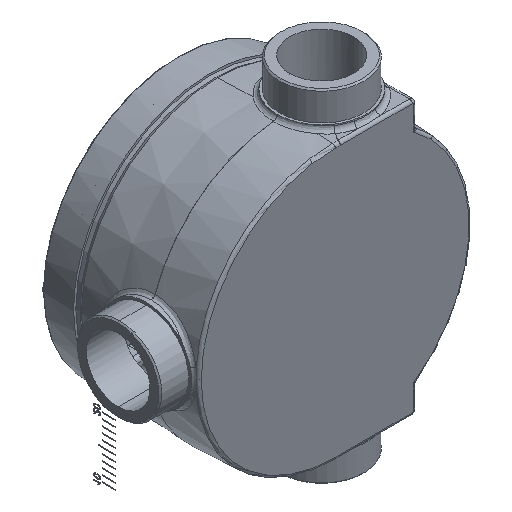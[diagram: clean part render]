
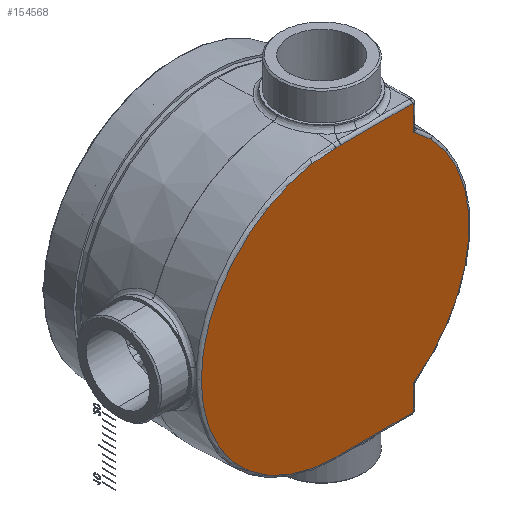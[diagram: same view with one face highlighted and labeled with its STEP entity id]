
A CAD part, isometric view. The second image highlights one B-rep face of the part: STEP entity #154568.
In plain terms, the highlighted planar face has unit normal (0, -1, 0).
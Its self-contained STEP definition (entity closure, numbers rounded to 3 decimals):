
#799 = CARTESIAN_POINT ( 'NONE',  ( 54.5, -35.5, -94.698 ) ) ;
#1807 = AXIS2_PLACEMENT_3D ( 'NONE', #46411, #130397, #58474 ) ;
#1882 = VERTEX_POINT ( 'NONE', #11155 ) ;
#5482 = DIRECTION ( 'NONE',  ( 0., 0., 1. ) ) ;
#6056 = CARTESIAN_POINT ( 'NONE',  ( 55.5, -35.5, -76.815 ) ) ;
#8062 = DIRECTION ( 'NONE',  ( 0., 0., 1. ) ) ;
#10042 = VERTEX_POINT ( 'NONE', #61416 ) ;
#11155 = CARTESIAN_POINT ( 'NONE',  ( 0., -35.5, -94.767 ) ) ;
#11720 = VERTEX_POINT ( 'NONE', #48471 ) ;
#11826 = DIRECTION ( 'NONE',  ( 0., 1., 0. ) ) ;
#12632 = EDGE_CURVE ( 'NONE', #1882, #18380, #93588, .T. ) ;
#13250 = LINE ( 'NONE', #149688, #37547 ) ;
#14395 = EDGE_CURVE ( 'NONE', #10042, #65193, #153396, .T. ) ;
#16718 = EDGE_CURVE ( 'NONE', #64077, #32964, #30122, .T. ) ;
#18380 = VERTEX_POINT ( 'NONE', #97137 ) ;
#21446 = ORIENTED_EDGE ( 'NONE', *, *, #142248, .T. ) ;
#22420 = AXIS2_PLACEMENT_3D ( 'NONE', #151684, #79795, #8062 ) ;
#23780 = CARTESIAN_POINT ( 'NONE',  ( 55.5, -35.5, 76.815 ) ) ;
#25224 = CARTESIAN_POINT ( 'NONE',  ( 0., -35.5, 0. ) ) ;
#25405 = EDGE_CURVE ( 'NONE', #149965, #32964, #124835, .T. ) ;
#27013 = AXIS2_PLACEMENT_3D ( 'NONE', #149127, #77233, #5482 ) ;
#27683 = AXIS2_PLACEMENT_3D ( 'NONE', #140454, #68503, #152507 ) ;
#29095 = DIRECTION ( 'NONE',  ( -1., 0., 0. ) ) ;
#29946 = CARTESIAN_POINT ( 'NONE',  ( 0., -35.5, 0. ) ) ;
#30122 = LINE ( 'NONE', #95585, #153927 ) ;
#30675 = LINE ( 'NONE', #119044, #118845 ) ;
#32964 = VERTEX_POINT ( 'NONE', #124379 ) ;
#33429 = ORIENTED_EDGE ( 'NONE', *, *, #25405, .F. ) ;
#35665 = CARTESIAN_POINT ( 'NONE',  ( 54.5, -35.5, 94.698 ) ) ;
#37214 = DIRECTION ( 'NONE',  ( 0., 0., 1. ) ) ;
#37547 = VECTOR ( 'NONE', #114021, 1000. ) ;
#39984 = EDGE_CURVE ( 'NONE', #10042, #73729, #30675, .T. ) ;
#40190 = CIRCLE ( 'NONE', #155175, 94.767 ) ;
#41912 = DIRECTION ( 'NONE',  ( 0., 0., 1. ) ) ;
#42560 = EDGE_CURVE ( 'NONE', #149965, #11720, #152062, .T. ) ;
#44096 = CIRCLE ( 'NONE', #93570, 94.767 ) ;
#46411 = CARTESIAN_POINT ( 'NONE',  ( 0., -35.5, 0. ) ) ;
#47850 = DIRECTION ( 'NONE',  ( 0., 0., 1. ) ) ;
#48471 = CARTESIAN_POINT ( 'NONE',  ( 3.606, -35.5, 94.698 ) ) ;
#50815 = ORIENTED_EDGE ( 'NONE', *, *, #12632, .T. ) ;
#51256 = VERTEX_POINT ( 'NONE', #71860 ) ;
#51640 = EDGE_CURVE ( 'NONE', #51256, #1882, #44096, .T. ) ;
#52613 = CARTESIAN_POINT ( 'NONE',  ( 0., -35.5, 94.698 ) ) ;
#55686 = PLANE ( 'NONE',  #22420 ) ;
#58474 = DIRECTION ( 'NONE',  ( 0., 0., 1. ) ) ;
#61416 = CARTESIAN_POINT ( 'NONE',  ( 55.5, -35.5, -93.698 ) ) ;
#63507 = ORIENTED_EDGE ( 'NONE', *, *, #14395, .F. ) ;
#64077 = VERTEX_POINT ( 'NONE', #23780 ) ;
#64422 = CIRCLE ( 'NONE', #1807, 94.767 ) ;
#65193 = VERTEX_POINT ( 'NONE', #799 ) ;
#65880 = AXIS2_PLACEMENT_3D ( 'NONE', #83542, #11826, #95612 ) ;
#68503 = DIRECTION ( 'NONE',  ( 0., -1., 0. ) ) ;
#71066 = ORIENTED_EDGE ( 'NONE', *, *, #75824, .T. ) ;
#71860 = CARTESIAN_POINT ( 'NONE',  ( 0., -35.5, 94.767 ) ) ;
#73729 = VERTEX_POINT ( 'NONE', #6056 ) ;
#75824 = EDGE_CURVE ( 'NONE', #73729, #64077, #40190, .T. ) ;
#77233 = DIRECTION ( 'NONE',  ( 0., 1., 0. ) ) ;
#78958 = ORIENTED_EDGE ( 'NONE', *, *, #16718, .T. ) ;
#79795 = DIRECTION ( 'NONE',  ( 0., 1., 0. ) ) ;
#83542 = CARTESIAN_POINT ( 'NONE',  ( 54.5, -35.5, -93.698 ) ) ;
#87675 = ORIENTED_EDGE ( 'NONE', *, *, #100493, .T. ) ;
#88952 = FACE_OUTER_BOUND ( 'NONE', #108707, .T. ) ;
#89457 = ORIENTED_EDGE ( 'NONE', *, *, #51640, .T. ) ;
#93570 = AXIS2_PLACEMENT_3D ( 'NONE', #29946, #113799, #41912 ) ;
#93588 = CIRCLE ( 'NONE', #27683, 94.767 ) ;
#94894 = DIRECTION ( 'NONE',  ( 0., 0., 1. ) ) ;
#95585 = CARTESIAN_POINT ( 'NONE',  ( 55.5, -35.5, 96.698 ) ) ;
#95612 = DIRECTION ( 'NONE',  ( 0., 0., 1. ) ) ;
#97137 = CARTESIAN_POINT ( 'NONE',  ( 3.606, -35.5, -94.698 ) ) ;
#100493 = EDGE_CURVE ( 'NONE', #11720, #51256, #64422, .T. ) ;
#108707 = EDGE_LOOP ( 'NONE', ( #63507, #140610, #71066, #78958, #33429, #138439, #87675, #89457, #50815, #21446 ) ) ;
#109049 = DIRECTION ( 'NONE',  ( 0., -1., 0. ) ) ;
#113799 = DIRECTION ( 'NONE',  ( 0., -1., 0. ) ) ;
#114021 = DIRECTION ( 'NONE',  ( 1., 0., 0. ) ) ;
#116409 = VECTOR ( 'NONE', #29095, 1000. ) ;
#118845 = VECTOR ( 'NONE', #94894, 1000. ) ;
#119044 = CARTESIAN_POINT ( 'NONE',  ( 55.5, -35.5, -77.745 ) ) ;
#124379 = CARTESIAN_POINT ( 'NONE',  ( 55.5, -35.5, 93.698 ) ) ;
#124835 = CIRCLE ( 'NONE', #27013, 1. ) ;
#130397 = DIRECTION ( 'NONE',  ( 0., -1., 0. ) ) ;
#138439 = ORIENTED_EDGE ( 'NONE', *, *, #42560, .T. ) ;
#140454 = CARTESIAN_POINT ( 'NONE',  ( 0., -35.5, 0. ) ) ;
#140610 = ORIENTED_EDGE ( 'NONE', *, *, #39984, .T. ) ;
#142248 = EDGE_CURVE ( 'NONE', #18380, #65193, #13250, .T. ) ;
#149127 = CARTESIAN_POINT ( 'NONE',  ( 54.5, -35.5, 93.698 ) ) ;
#149688 = CARTESIAN_POINT ( 'NONE',  ( 57.5, -35.5, -94.698 ) ) ;
#149965 = VERTEX_POINT ( 'NONE', #35665 ) ;
#151684 = CARTESIAN_POINT ( 'NONE',  ( 0., -35.5, 0. ) ) ;
#152062 = LINE ( 'NONE', #52613, #116409 ) ;
#152507 = DIRECTION ( 'NONE',  ( 0., 0., 1. ) ) ;
#153396 = CIRCLE ( 'NONE', #65880, 1. ) ;
#153927 = VECTOR ( 'NONE', #47850, 1000. ) ;
#154568 = ADVANCED_FACE ( 'NONE', ( #88952 ), #55686, .F. ) ;
#155175 = AXIS2_PLACEMENT_3D ( 'NONE', #25224, #109049, #37214 ) ;
